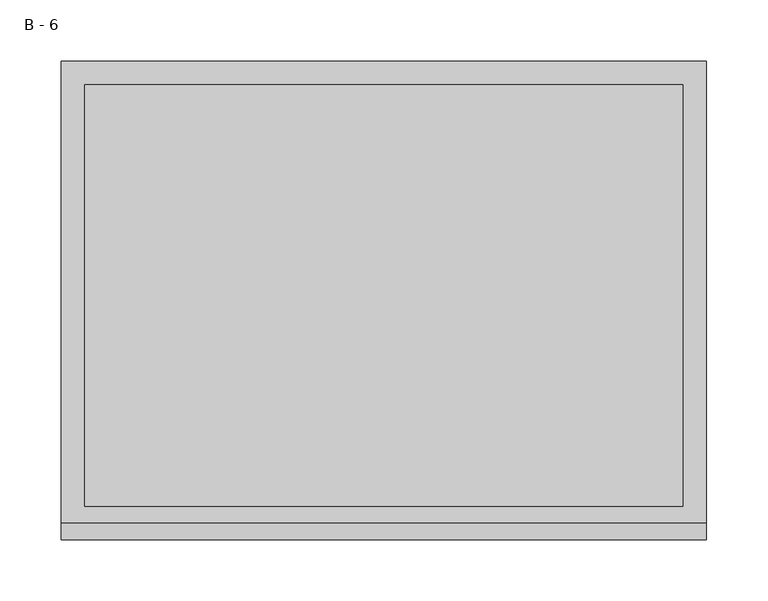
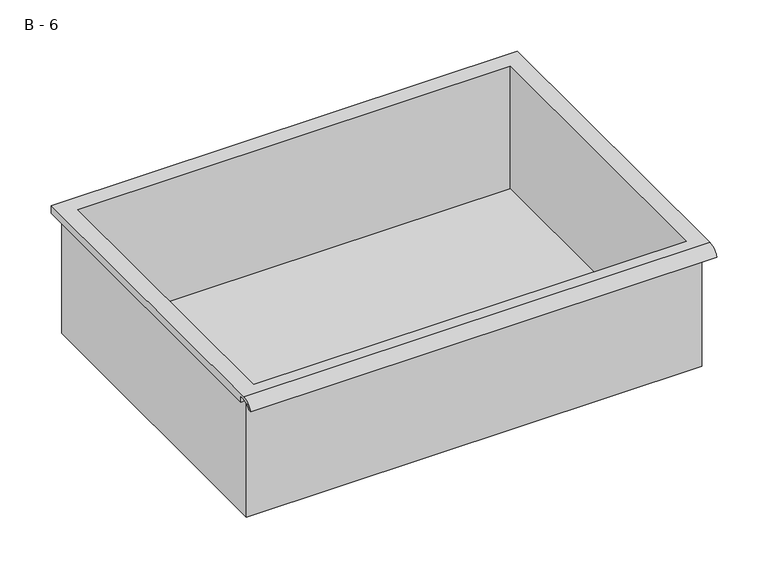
"""IFC4 building model written with IfcOpenShell, lengths in millimetres: furniture geometry, HermanMiller_CoStruc_CO207_Drawer : B - 6."""

from ifc_helpers import new_model, si_unit, frame, origin, place, context, project, spatial, polyline, circle_curve, source, transform, mapped, element, save
from ifc_brep_helpers import plane_surface, cylinder_surface, revolved_surface, advanced_brep


def b_6_3d1a9f76(model_context):
    return source(origin(), model_context, "Body", "AdvancedBrep", [
        advanced_brep(
        [(-257.1076517, -176.2125, 533.4), (257.2423483, -176.2125, 533.4), (257.2423483, -176.2125, 673.1), (263.5923483, -176.2125, 673.1), (263.5923483, -176.2125, 679.4071341), (-263.4576517, -176.2125, 679.4071341), (-263.4576517, -176.2125, 673.1), (-257.1076517, -176.2125, 673.1), (257.2423483, 185.7375, 533.4), (-257.1076517, 185.7375, 533.4), (-257.1076517, 185.7375, 673.1), (257.2423483, 185.7375, 673.1), (263.5923483, -181.6070544, 682.625), (263.5923483, 195.2625, 682.625), (-263.4576517, 195.2625, 682.625), (-263.4576517, -181.6070544, 682.625), (244.5423483, -168.275, 682.625), (-244.4076517, -168.275, 682.625), (-244.4076517, 176.2125, 682.625), (244.5423483, 176.2125, 682.625), (263.5923483, -195.2625, 673.1), (263.5923483, -191.8280601, 673.1), (263.5923483, -180.4714815, 679.4071341), (263.5923483, 195.2625, 673.1), (-263.4576517, 195.2625, 673.1), (-263.4576517, -180.4714815, 679.4071341), (-263.4576517, -191.8280601, 673.1), (-263.4576517, -195.2625, 673.1), (-244.4076517, -168.275, 536.4261719), (244.5423483, -168.275, 536.4261719), (244.5423483, 176.2125, 536.4261719), (-244.4076517, 176.2125, 536.4261719)],
        [
            (0, 1),
            (1, 2),
            (2, 3),
            (3, 4),
            (4, 5),
            (5, 6),
            (6, 7),
            (7, 0),
            (8, 9),
            (9, 10),
            (10, 11),
            (11, 8),
            (0, 9),
            (8, 1),
            (11, 2),
            (12, 13),
            (13, 14),
            (14, 15),
            (15, 12),
            (16, 17),
            (17, 18),
            (18, 19),
            (19, 16),
            (7, 10),
            (12, 20, circle_curve(frame((263.5923483, -181.6070544, 668.0739859), z_axis=(1.0, 0.0, 0.0), x_axis=(0.0, 1.0, 0.0)), 14.5510141)),
            (20, 21),
            (21, 22, circle_curve(frame((263.5923483, -181.6070544, 668.0739859), z_axis=(-1.0, 0.0, 0.0), x_axis=(0.0, 1.0, 0.0)), 11.3898979)),
            (22, 4),
            (3, 23),
            (23, 13),
            (14, 24),
            (24, 6),
            (5, 25),
            (25, 26, circle_curve(frame((-263.4576517, -181.6070544, 668.0739859), z_axis=(1.0, 0.0, 0.0), x_axis=(0.0, 1.0, 0.0)), 11.3898979)),
            (26, 27),
            (27, 15, circle_curve(frame((-263.4576517, -181.6070544, 668.0739859), z_axis=(-1.0, 0.0, 0.0), x_axis=(0.0, 1.0, 0.0)), 14.5510141)),
            (27, 20),
            (26, 21),
            (25, 22),
            (24, 23),
            (28, 29),
            (29, 30),
            (30, 31),
            (31, 28),
            (28, 17),
            (16, 29),
            (19, 30),
            (18, 31),
        ],
        [
            plane_surface(frame((257.2423483, -176.2125, 533.4), z_axis=(0.0, -1.0, 0.0), x_axis=(1.0, 0.0, 0.0))),
            plane_surface(frame((257.2423483, 185.7375, 533.4), z_axis=(0.0, 1.0, 0.0), x_axis=(-1.0, 0.0, 0.0))),
            plane_surface(frame((-257.1076517, -176.2125, 533.4), z_axis=(0.0, 0.0, -1.0), x_axis=(0.0, 1.0, 0.0))),
            plane_surface(frame((257.2423483, -176.2125, 533.4), z_axis=(1.0, 0.0, 0.0), x_axis=(0.0, 1.0, 0.0))),
            plane_surface(frame((257.2423483, -176.2125, 682.625), z_axis=(0.0, 0.0, 1.0), x_axis=(0.0, 1.0, 0.0))),
            plane_surface(frame((-257.1076517, -176.2125, 682.625), z_axis=(-1.0, 0.0, 0.0), x_axis=(0.0, 1.0, 0.0))),
            plane_surface(frame((263.5923483, 195.2625, 682.625), z_axis=(1.0, 0.0, 0.0), x_axis=(0.0, -1.0, 0.0))),
            plane_surface(frame((-263.4576517, 195.2625, 682.625), z_axis=(-1.0, 0.0, 0.0), x_axis=(0.0, 1.0, 0.0))),
            cylinder_surface(frame((-263.4576517, -181.6070544, 668.0739859), z_axis=(1.0, 0.0, 0.0), x_axis=(0.0, 1.0, 0.0)), 14.5510141),
            plane_surface(frame((263.5923483, -195.2625, 673.1), z_axis=(0.0, -7.251821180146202e-12, -1.0), x_axis=(-1.0, 0.0, 0.0))),
            revolved_surface(polyline([(-263.4576517, -170.21715650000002, 668.0739859), (263.59234829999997, -170.21715650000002, 668.0739859)]), (-263.4576517, -181.6070544, 668.0739859), (-1.0, 0.0, 0.0)),
            plane_surface(frame((263.5923483, -180.4714815, 679.4071341), z_axis=(0.0, -1.7956755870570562e-11, -1.0), x_axis=(-1.0, 0.0, 0.0))),
            plane_surface(frame((263.5923483, -176.2125, 673.1), z_axis=(0.0, 0.0, -1.0), x_axis=(-1.0, 0.0, 0.0))),
            plane_surface(frame((263.5923483, 195.2625, 673.1), z_axis=(0.0, 1.0, 0.0), x_axis=(-1.0, 0.0, 0.0))),
            plane_surface(frame((244.5423483, -168.275, 536.4261719), z_axis=(0.0, 0.0, 1.0), x_axis=(-1.0, 0.0, 0.0))),
            plane_surface(frame((-244.4076517, -168.275, 682.625), z_axis=(0.0, 1.0, 0.0), x_axis=(0.0, 0.0, -1.0))),
            plane_surface(frame((244.5423483, -168.275, 682.625), z_axis=(-1.0, 0.0, 0.0), x_axis=(0.0, 0.0, -1.0))),
            plane_surface(frame((244.5423483, 176.2125, 682.625), z_axis=(0.0, -1.0, 0.0), x_axis=(0.0, 0.0, -1.0))),
            plane_surface(frame((-244.4076517, 176.2125, 682.625), z_axis=(1.0, 0.0, 0.0), x_axis=(0.0, 0.0, -1.0))),
        ],
        [
            (0, [[1, 2, 3, 4, 5, 6, 7, 8]]),
            (1, [[9, 10, 11, 12]]),
            (2, [[-1, 13, -9, 14]]),
            (3, [[-14, -12, 15, -2]]),
            (4, [[16, 17, 18, 19], [20, 21, 22, 23]]),
            (5, [[-13, -8, 24, -10]]),
            (6, [[-16, 25, 26, 27, 28, -4, 29, 30]]),
            (7, [[31, 32, -6, 33, 34, 35, 36, -18]]),
            (8, [[-25, -19, -36, 37]]),
            (9, [[-26, -37, -35, 38]]),
            (10, [[-27, -38, -34, 39]]),
            (11, [[-28, -39, -33, -5]]),
            (12, [[-29, -3, -15, -11, -24, -7, -32, 40]]),
            (13, [[-30, -40, -31, -17]]),
            (14, [[41, 42, 43, 44]]),
            (15, [[-41, 45, -20, 46]]),
            (16, [[-42, -46, -23, 47]]),
            (17, [[-43, -47, -22, 48]]),
            (18, [[-44, -48, -21, -45]]),
        ],
    ),
    ])


if __name__ == "__main__":
    model = new_model("IFC4")
    model_context = context("Model", 3, world=origin())
    ifc_project = project(units=[si_unit("LENGTHUNIT", "METRE", prefix="MILLI")], contexts=[model_context])
    site = spatial("IfcSite", under=ifc_project)
    building = spatial("IfcBuilding", under=site)
    placement = place(None, origin())
    b_6_shape = b_6_3d1a9f76(model_context)
    element("IfcFurniture", 1, ObjectType="HermanMiller_CoStruc_CO207_Drawer : B - 6", at=placement, inside=building, context=model_context, shape_type="MappedRepresentation", body=[
        mapped(b_6_shape, transform((0.0, 0.0, 0.0), x_axis=(1.0, 0.0, 0.0), y_axis=(0.0, 1.0, 0.0), z_axis=(0.0, 0.0, 1.0))),
    ])
    save(model, "model.ifc")
